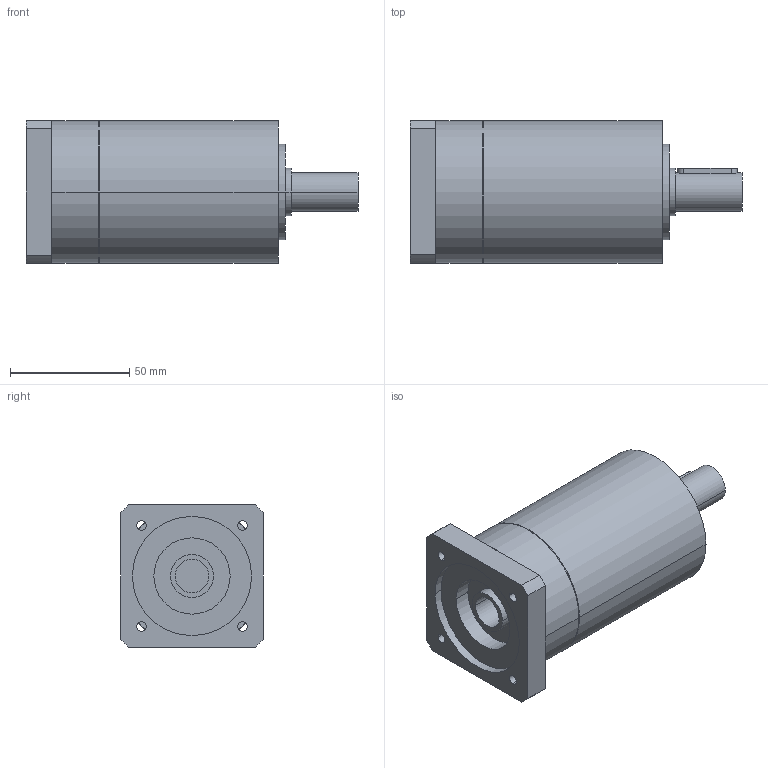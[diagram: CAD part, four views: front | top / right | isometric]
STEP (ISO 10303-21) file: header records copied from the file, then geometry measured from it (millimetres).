
FILE_DESCRIPTION(('CoCreate Modeling STEP Export'),'2;1');
FILE_NAME('GPR75_ig-9-12-16-20-24-30-36_16_B14_14_P18.stp','2014-08-25T16:45:20',(''),(''),'CoCreate Modeling STEP processor for AP214 (Solid Model)','CoCreate Modeling 16.00C 25-Feb-2009 (C) Parametric Technology GmbH','');
FILE_SCHEMA(('AUTOMOTIVE_DESIGN { 1 0 10303 214 1 1 1 1 }'));
Length unit declared in the file: millimetre
Products named in the file (2): GPR75_ig-9-12-16-20-24-30-36_16_B14_14_P18
Assembly tree (1 placements, depth 2):
  GPR75_ig-9-12-16-20-24-30-36_16_B14_14_P18
    GPR75_ig-9-12-16-20-24-30-36_16_B14_14_P18
Bounding box: 139.4 x 60 x 60 mm (x, y, z)
Volume: 300464.1 mm3; surface area: 33826.7 mm2
Topology: 1 solids, 1 shells, 74 faces, 200 edges, 136 vertices
Faces by surface type: cylinder 42, plane 26, cone 6
Entity records: 2017 total; most frequent: ORIENTED_EDGE 396, CARTESIAN_POINT 370, DIRECTION 274, EDGE_CURVE 198, VERTEX_POINT 136, AXIS2_PLACEMENT_3D 104, EDGE_LOOP 92, FACE_OUTER_BOUND 74
